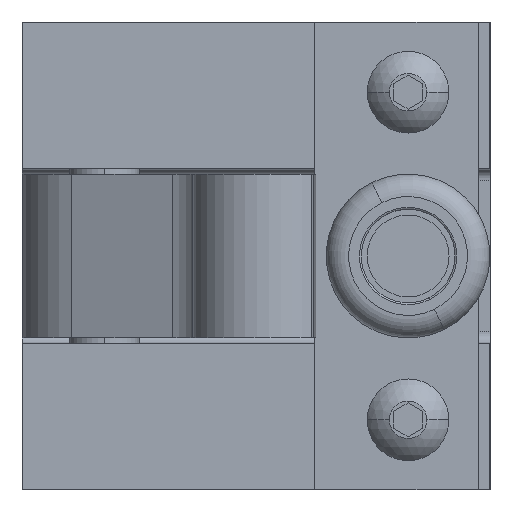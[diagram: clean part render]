
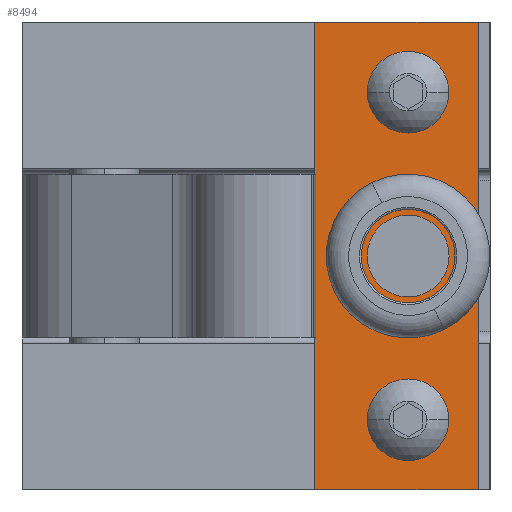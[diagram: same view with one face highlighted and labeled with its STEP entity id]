
A CAD part, left-side view. The second image highlights one B-rep face of the part: STEP entity #8494.
In plain terms, the highlighted planar face has unit normal (-1, 0, 0).
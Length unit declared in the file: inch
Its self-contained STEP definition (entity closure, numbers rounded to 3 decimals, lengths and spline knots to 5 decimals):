
#2102 = AXIS2_PLACEMENT_3D ( 'NONE', #2118, #2117, #2116 ) ;
#2103 = PLANE ( 'NONE',  #2102 ) ;
#2104 = FACE_OUTER_BOUND ( 'NONE', #8992, .T. ) ;
#2105 = FACE_BOUND ( 'NONE', #8740, .T. ) ;
#2108 = FACE_BOUND ( 'NONE', #8803, .T. ) ;
#2109 = FACE_BOUND ( 'NONE', #8495, .T. ) ;
#2116 = DIRECTION ( 'NONE',  ( 0., 0., 1. ) ) ;
#2117 = DIRECTION ( 'NONE',  ( -1., 0., 0. ) ) ;
#2118 = CARTESIAN_POINT ( 'NONE',  ( -0.5, 0., -1.25 ) ) ;
#2246 = CARTESIAN_POINT ( 'NONE',  ( -0.5, 0.375, -0.21875 ) ) ;
#2497 = DIRECTION ( 'NONE',  ( -1., 0., 0. ) ) ;
#2498 = CARTESIAN_POINT ( 'NONE',  ( -0.5, 0.375, 0.875 ) ) ;
#2499 = AXIS2_PLACEMENT_3D ( 'NONE', #2498, #2497, #2538 ) ;
#2500 = CIRCLE ( 'NONE', #2499, 0.14062 ) ;
#2538 = DIRECTION ( 'NONE',  ( 0., 0., 1. ) ) ;
#2541 = CARTESIAN_POINT ( 'NONE',  ( -0.5, 0.375, 1.01562 ) ) ;
#2561 = CARTESIAN_POINT ( 'NONE',  ( -0.5, 0.375, 0.73438 ) ) ;
#2628 = CARTESIAN_POINT ( 'NONE',  ( -0.5, 0., -1.25 ) ) ;
#2629 = DIRECTION ( 'NONE',  ( 0., 0., 1. ) ) ;
#2630 = VECTOR ( 'NONE', #2629, 39.37008 ) ;
#2631 = CARTESIAN_POINT ( 'NONE',  ( -0.5, 0., -1.25 ) ) ;
#2632 = LINE ( 'NONE', #2631, #2630 ) ;
#2641 = DIRECTION ( 'NONE',  ( 0., 0., 1. ) ) ;
#2642 = DIRECTION ( 'NONE',  ( -1., 0., 0. ) ) ;
#2643 = CARTESIAN_POINT ( 'NONE',  ( -0.5, 0.375, 0.875 ) ) ;
#2644 = AXIS2_PLACEMENT_3D ( 'NONE', #2643, #2642, #2641 ) ;
#2650 = DIRECTION ( 'NONE',  ( 0., 0., 1. ) ) ;
#2651 = DIRECTION ( 'NONE',  ( -1., 0., 0. ) ) ;
#2652 = CARTESIAN_POINT ( 'NONE',  ( -0.5, 0.375, 0. ) ) ;
#2653 = AXIS2_PLACEMENT_3D ( 'NONE', #2652, #2651, #2650 ) ;
#2654 = CIRCLE ( 'NONE', #2653, 0.21875 ) ;
#2674 = CIRCLE ( 'NONE', #2644, 0.14062 ) ;
#2688 = CARTESIAN_POINT ( 'NONE',  ( -0.5, 0.375, 0.21875 ) ) ;
#2776 = DIRECTION ( 'NONE',  ( 0., 0., 1. ) ) ;
#2777 = DIRECTION ( 'NONE',  ( -1., 0., 0. ) ) ;
#2778 = CARTESIAN_POINT ( 'NONE',  ( -0.5, 0.375, 0. ) ) ;
#2779 = AXIS2_PLACEMENT_3D ( 'NONE', #2778, #2777, #2776 ) ;
#2780 = CIRCLE ( 'NONE', #2779, 0.21875 ) ;
#2791 = DIRECTION ( 'NONE',  ( 0., -1., 0. ) ) ;
#2792 = VECTOR ( 'NONE', #2791, 39.37008 ) ;
#2793 = CARTESIAN_POINT ( 'NONE',  ( -0.5, 0., -1.25 ) ) ;
#2794 = LINE ( 'NONE', #2793, #2792 ) ;
#2844 = CARTESIAN_POINT ( 'NONE',  ( -0.5, 0., 1.25 ) ) ;
#2888 = DIRECTION ( 'NONE',  ( 0., 0., 1. ) ) ;
#2889 = DIRECTION ( 'NONE',  ( -1., 0., 0. ) ) ;
#2890 = CARTESIAN_POINT ( 'NONE',  ( -0.5, 0.375, -0.875 ) ) ;
#2891 = AXIS2_PLACEMENT_3D ( 'NONE', #2890, #2889, #2888 ) ;
#2892 = CIRCLE ( 'NONE', #2891, 0.14062 ) ;
#2900 = CARTESIAN_POINT ( 'NONE',  ( -0.5, 0.375, -1.01563 ) ) ;
#2917 = CARTESIAN_POINT ( 'NONE',  ( -0.5, 0.875, -1.25 ) ) ;
#2918 = LINE ( 'NONE', #2917, #2967 ) ;
#2956 = CARTESIAN_POINT ( 'NONE',  ( -0.5, 0.875, -1.25 ) ) ;
#2966 = DIRECTION ( 'NONE',  ( 0., 0., 1. ) ) ;
#2967 = VECTOR ( 'NONE', #2966, 39.37008 ) ;
#3065 = CARTESIAN_POINT ( 'NONE',  ( -0.5, 0.375, -0.875 ) ) ;
#3085 = DIRECTION ( 'NONE',  ( 0., 0., 1. ) ) ;
#3086 = DIRECTION ( 'NONE',  ( -1., 0., 0. ) ) ;
#3094 = CARTESIAN_POINT ( 'NONE',  ( -0.5, 0.875, 1.25 ) ) ;
#3115 = DIRECTION ( 'NONE',  ( 0., -1., 0. ) ) ;
#3116 = VECTOR ( 'NONE', #3115, 39.37008 ) ;
#3117 = CARTESIAN_POINT ( 'NONE',  ( -0.5, 0., 1.25 ) ) ;
#3118 = LINE ( 'NONE', #3117, #3116 ) ;
#3150 = AXIS2_PLACEMENT_3D ( 'NONE', #3065, #3086, #3085 ) ;
#3151 = CIRCLE ( 'NONE', #3150, 0.14062 ) ;
#3157 = CARTESIAN_POINT ( 'NONE',  ( -0.5, 0.375, -0.73438 ) ) ;
#8494 = ADVANCED_FACE ( 'NONE', ( #2109, #2108, #2105, #2104 ), #2103, .T. ) ;
#8495 = EDGE_LOOP ( 'NONE', ( #8496, #8762 ) ) ;
#8496 = ORIENTED_EDGE ( 'NONE', *, *, #8790, .F. ) ;
#8512 = VERTEX_POINT ( 'NONE', #2246 ) ;
#8641 = VERTEX_POINT ( 'NONE', #2561 ) ;
#8643 = VERTEX_POINT ( 'NONE', #2541 ) ;
#8660 = EDGE_CURVE ( 'NONE', #8641, #8643, #2500, .T. ) ;
#8714 = EDGE_CURVE ( 'NONE', #8512, #8715, #2654, .T. ) ;
#8715 = VERTEX_POINT ( 'NONE', #2688 ) ;
#8735 = ORIENTED_EDGE ( 'NONE', *, *, #8736, .F. ) ;
#8736 = EDGE_CURVE ( 'NONE', #8643, #8641, #2674, .T. ) ;
#8739 = ORIENTED_EDGE ( 'NONE', *, *, #8660, .F. ) ;
#8740 = EDGE_LOOP ( 'NONE', ( #8927, #8930 ) ) ;
#8743 = EDGE_CURVE ( 'NONE', #8744, #8770, #2632, .T. ) ;
#8744 = VERTEX_POINT ( 'NONE', #2628 ) ;
#8754 = ORIENTED_EDGE ( 'NONE', *, *, #8838, .T. ) ;
#8759 = VERTEX_POINT ( 'NONE', #2956 ) ;
#8761 = EDGE_CURVE ( 'NONE', #8759, #8905, #2918, .T. ) ;
#8762 = ORIENTED_EDGE ( 'NONE', *, *, #8714, .F. ) ;
#8770 = VERTEX_POINT ( 'NONE', #2844 ) ;
#8790 = EDGE_CURVE ( 'NONE', #8715, #8512, #2780, .T. ) ;
#8803 = EDGE_LOOP ( 'NONE', ( #8735, #8739 ) ) ;
#8813 = VERTEX_POINT ( 'NONE', #2900 ) ;
#8838 = EDGE_CURVE ( 'NONE', #8759, #8744, #2794, .T. ) ;
#8867 = EDGE_CURVE ( 'NONE', #8813, #8920, #2892, .T. ) ;
#8905 = VERTEX_POINT ( 'NONE', #3094 ) ;
#8920 = VERTEX_POINT ( 'NONE', #3157 ) ;
#8927 = ORIENTED_EDGE ( 'NONE', *, *, #8928, .F. ) ;
#8928 = EDGE_CURVE ( 'NONE', #8920, #8813, #3151, .T. ) ;
#8930 = ORIENTED_EDGE ( 'NONE', *, *, #8867, .F. ) ;
#8944 = ORIENTED_EDGE ( 'NONE', *, *, #8743, .T. ) ;
#8974 = EDGE_CURVE ( 'NONE', #8905, #8770, #3118, .T. ) ;
#8992 = EDGE_LOOP ( 'NONE', ( #8944, #9186, #9138, #8754 ) ) ;
#9138 = ORIENTED_EDGE ( 'NONE', *, *, #8761, .F. ) ;
#9186 = ORIENTED_EDGE ( 'NONE', *, *, #8974, .F. ) ;
